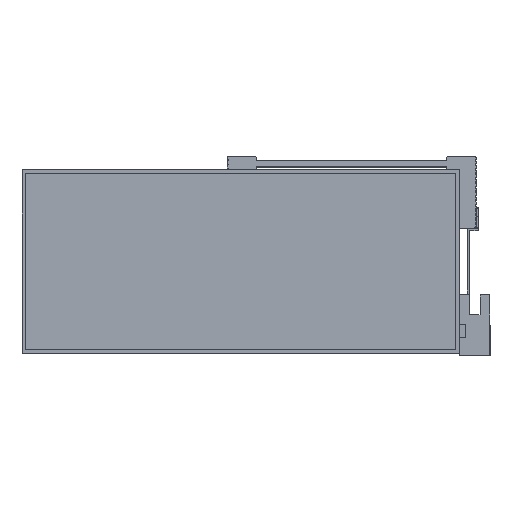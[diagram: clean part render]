
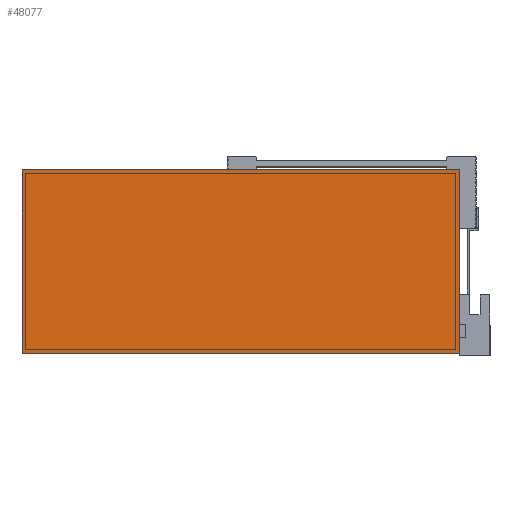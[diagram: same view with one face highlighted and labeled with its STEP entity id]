
A CAD part, top view. The second image highlights one B-rep face of the part: STEP entity #48077.
In plain terms, the highlighted planar face has unit normal (0, 0, 1) as drawn and (0, -1, 0) by its records, which use the part's own axes.
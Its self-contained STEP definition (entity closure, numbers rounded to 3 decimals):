
#9847 = ORIENTED_EDGE ( 'NONE', *, *, #87249, .F. ) ;
#13114 = VECTOR ( 'NONE', #15862, 1000. ) ;
#13724 = EDGE_CURVE ( 'NONE', #103493, #100517, #68428, .T. ) ;
#15862 = DIRECTION ( 'NONE',  ( -1., 0., 0. ) ) ;
#17211 = VECTOR ( 'NONE', #46992, 1000. ) ;
#20725 = EDGE_CURVE ( 'NONE', #116363, #103493, #75706, .T. ) ;
#21248 = DIRECTION ( 'NONE',  ( 0., 0., -1. ) ) ;
#24900 = CARTESIAN_POINT ( 'NONE',  ( 0., 0., 0. ) ) ;
#24948 = AXIS2_PLACEMENT_3D ( 'NONE', #24900, #108384, #46243 ) ;
#31212 = CARTESIAN_POINT ( 'NONE',  ( 96.5, 0., 40.5 ) ) ;
#33899 = ORIENTED_EDGE ( 'NONE', *, *, #97307, .F. ) ;
#37363 = ORIENTED_EDGE ( 'NONE', *, *, #20725, .F. ) ;
#37439 = VERTEX_POINT ( 'NONE', #119558 ) ;
#42885 = FACE_OUTER_BOUND ( 'NONE', #99382, .T. ) ;
#46243 = DIRECTION ( 'NONE',  ( 0., 0., -1. ) ) ;
#46992 = DIRECTION ( 'NONE',  ( 1., 0., 0. ) ) ;
#47904 = DIRECTION ( 'NONE',  ( 0., 0., 1. ) ) ;
#48077 = ADVANCED_FACE ( 'NONE', ( #42885 ), #97935, .T. ) ;
#68428 = LINE ( 'NONE', #93870, #99149 ) ;
#68429 = LINE ( 'NONE', #78524, #13114 ) ;
#75706 = LINE ( 'NONE', #98681, #17211 ) ;
#76342 = LINE ( 'NONE', #110048, #131445 ) ;
#76541 = CARTESIAN_POINT ( 'NONE',  ( -96.5, 0., 40.5 ) ) ;
#78524 = CARTESIAN_POINT ( 'NONE',  ( -96.5, 0., -40.5 ) ) ;
#87249 = EDGE_CURVE ( 'NONE', #37439, #116363, #76342, .T. ) ;
#93870 = CARTESIAN_POINT ( 'NONE',  ( 96.5, 0., 40.5 ) ) ;
#97307 = EDGE_CURVE ( 'NONE', #100517, #37439, #68429, .T. ) ;
#97935 = PLANE ( 'NONE',  #24948 ) ;
#98681 = CARTESIAN_POINT ( 'NONE',  ( -96.5, 0., 40.5 ) ) ;
#99149 = VECTOR ( 'NONE', #21248, 1000. ) ;
#99382 = EDGE_LOOP ( 'NONE', ( #111523, #37363, #9847, #33899 ) ) ;
#100517 = VERTEX_POINT ( 'NONE', #127824 ) ;
#103493 = VERTEX_POINT ( 'NONE', #31212 ) ;
#108384 = DIRECTION ( 'NONE',  ( 0., -1., 0. ) ) ;
#110048 = CARTESIAN_POINT ( 'NONE',  ( -96.5, 0., 40.5 ) ) ;
#111523 = ORIENTED_EDGE ( 'NONE', *, *, #13724, .F. ) ;
#116363 = VERTEX_POINT ( 'NONE', #76541 ) ;
#119558 = CARTESIAN_POINT ( 'NONE',  ( -96.5, 0., -40.5 ) ) ;
#127824 = CARTESIAN_POINT ( 'NONE',  ( 96.5, 0., -40.5 ) ) ;
#131445 = VECTOR ( 'NONE', #47904, 1000. ) ;
